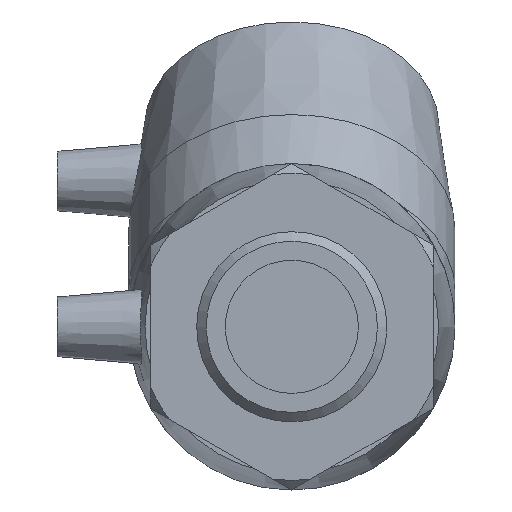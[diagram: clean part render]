
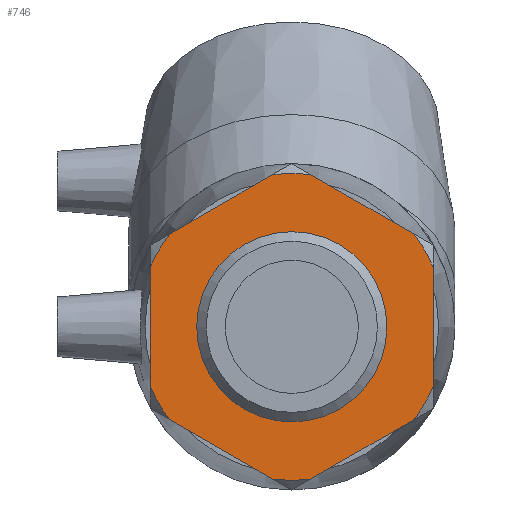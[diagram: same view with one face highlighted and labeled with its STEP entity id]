
A CAD part, left-side view. The second image highlights one B-rep face of the part: STEP entity #746.
In plain terms, the highlighted planar face has unit normal (-1, 0, 0).
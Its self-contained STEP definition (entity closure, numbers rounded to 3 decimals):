
#19=LINE('',#1163,#37);
#23=LINE('',#1187,#41);
#26=LINE('',#1209,#44);
#29=LINE('',#1231,#47);
#34=LINE('',#1268,#52);
#36=LINE('',#1287,#54);
#37=VECTOR('',#926,29.972);
#41=VECTOR('',#932,29.972);
#44=VECTOR('',#937,29.972);
#47=VECTOR('',#942,29.972);
#52=VECTOR('',#949,29.972);
#54=VECTOR('',#953,29.972);
#101=PLANE('',#813);
#121=FACE_BOUND('',#228,.T.);
#165=FACE_OUTER_BOUND('',#227,.T.);
#227=EDGE_LOOP('',(#584,#585,#586,#587,#588,#589,#590,#591,#592,#593,#594,
#595));
#228=EDGE_LOOP('',(#596));
#315=CIRCLE('',#806,23.902);
#316=CIRCLE('',#814,38.54);
#317=CIRCLE('',#815,38.54);
#318=CIRCLE('',#816,38.54);
#319=CIRCLE('',#817,38.54);
#320=CIRCLE('',#818,38.54);
#321=CIRCLE('',#819,38.54);
#364=VERTEX_POINT('',#1154);
#365=VERTEX_POINT('',#1157);
#367=VERTEX_POINT('',#1162);
#373=VERTEX_POINT('',#1182);
#374=VERTEX_POINT('',#1186);
#379=VERTEX_POINT('',#1204);
#380=VERTEX_POINT('',#1208);
#385=VERTEX_POINT('',#1226);
#386=VERTEX_POINT('',#1230);
#392=VERTEX_POINT('',#1249);
#396=VERTEX_POINT('',#1264);
#397=VERTEX_POINT('',#1270);
#400=VERTEX_POINT('',#1283);
#439=EDGE_CURVE('',#364,#364,#315,.T.);
#441=EDGE_CURVE('',#367,#365,#19,.T.);
#449=EDGE_CURVE('',#374,#373,#23,.T.);
#456=EDGE_CURVE('',#380,#379,#26,.T.);
#463=EDGE_CURVE('',#386,#385,#29,.T.);
#475=EDGE_CURVE('',#392,#396,#34,.T.);
#481=EDGE_CURVE('',#397,#400,#36,.T.);
#482=EDGE_CURVE('',#392,#400,#316,.T.);
#483=EDGE_CURVE('',#386,#396,#317,.T.);
#484=EDGE_CURVE('',#380,#385,#318,.T.);
#485=EDGE_CURVE('',#374,#379,#319,.T.);
#486=EDGE_CURVE('',#367,#373,#320,.T.);
#487=EDGE_CURVE('',#397,#365,#321,.T.);
#584=ORIENTED_EDGE('',*,*,#481,.T.);
#585=ORIENTED_EDGE('',*,*,#482,.F.);
#586=ORIENTED_EDGE('',*,*,#475,.T.);
#587=ORIENTED_EDGE('',*,*,#483,.F.);
#588=ORIENTED_EDGE('',*,*,#463,.T.);
#589=ORIENTED_EDGE('',*,*,#484,.F.);
#590=ORIENTED_EDGE('',*,*,#456,.T.);
#591=ORIENTED_EDGE('',*,*,#485,.F.);
#592=ORIENTED_EDGE('',*,*,#449,.T.);
#593=ORIENTED_EDGE('',*,*,#486,.F.);
#594=ORIENTED_EDGE('',*,*,#441,.T.);
#595=ORIENTED_EDGE('',*,*,#487,.F.);
#596=ORIENTED_EDGE('',*,*,#439,.T.);
#746=ADVANCED_FACE('',(#165,#121),#101,.T.);
#806=AXIS2_PLACEMENT_3D('',#1155,#922,#923);
#813=AXIS2_PLACEMENT_3D('',#1288,#954,#955);
#814=AXIS2_PLACEMENT_3D('',#1289,#956,#957);
#815=AXIS2_PLACEMENT_3D('',#1290,#958,#959);
#816=AXIS2_PLACEMENT_3D('',#1291,#960,#961);
#817=AXIS2_PLACEMENT_3D('',#1292,#962,#963);
#818=AXIS2_PLACEMENT_3D('',#1293,#964,#965);
#819=AXIS2_PLACEMENT_3D('',#1294,#966,#967);
#922=DIRECTION('center_axis',(1.,0.,0.));
#923=DIRECTION('ref_axis',(0.,0.,-1.));
#926=DIRECTION('',(0.,0.,-1.));
#932=DIRECTION('',(0.,0.866,-0.5));
#937=DIRECTION('',(0.,0.866,0.5));
#942=DIRECTION('',(0.,0.,1.));
#949=DIRECTION('',(0.,-0.866,0.5));
#953=DIRECTION('',(0.,-0.866,-0.5));
#954=DIRECTION('center_axis',(-1.,0.,0.));
#955=DIRECTION('ref_axis',(0.,0.,1.));
#956=DIRECTION('center_axis',(1.,0.,0.));
#957=DIRECTION('ref_axis',(0.,0.,1.));
#958=DIRECTION('center_axis',(1.,0.,0.));
#959=DIRECTION('ref_axis',(0.,0.,1.));
#960=DIRECTION('center_axis',(1.,0.,0.));
#961=DIRECTION('ref_axis',(0.,0.,1.));
#962=DIRECTION('center_axis',(1.,0.,0.));
#963=DIRECTION('ref_axis',(0.,0.,1.));
#964=DIRECTION('center_axis',(1.,0.,0.));
#965=DIRECTION('ref_axis',(0.,0.,1.));
#966=DIRECTION('center_axis',(1.,0.,0.));
#967=DIRECTION('ref_axis',(0.,0.,1.));
#1154=CARTESIAN_POINT('',(-80.512,0.,-23.902));
#1155=CARTESIAN_POINT('Origin',(-80.512,0.,0.));
#1157=CARTESIAN_POINT('',(-80.512,35.507,-14.986));
#1162=CARTESIAN_POINT('',(-80.512,35.507,14.986));
#1163=CARTESIAN_POINT('',(-80.512,35.507,-30.75));
#1182=CARTESIAN_POINT('',(-80.512,30.732,23.257));
#1186=CARTESIAN_POINT('',(-80.512,4.775,38.243));
#1187=CARTESIAN_POINT('',(-80.512,35.507,20.5));
#1204=CARTESIAN_POINT('',(-80.512,-4.775,38.243));
#1208=CARTESIAN_POINT('',(-80.512,-30.732,23.257));
#1209=CARTESIAN_POINT('',(-80.512,-17.754,30.75));
#1226=CARTESIAN_POINT('',(-80.512,-35.507,14.986));
#1230=CARTESIAN_POINT('',(-80.512,-35.507,-14.986));
#1231=CARTESIAN_POINT('',(-80.512,-35.507,-10.25));
#1249=CARTESIAN_POINT('',(-80.512,-4.775,-38.243));
#1264=CARTESIAN_POINT('',(-80.512,-30.732,-23.257));
#1268=CARTESIAN_POINT('',(-80.512,-17.754,-30.75));
#1270=CARTESIAN_POINT('',(-80.512,30.732,-23.257));
#1283=CARTESIAN_POINT('',(-80.512,4.775,-38.243));
#1287=CARTESIAN_POINT('',(-80.512,0.,-41.));
#1288=CARTESIAN_POINT('Origin',(-80.512,0.,-41.));
#1289=CARTESIAN_POINT('Origin',(-80.512,0.,0.));
#1290=CARTESIAN_POINT('Origin',(-80.512,0.,0.));
#1291=CARTESIAN_POINT('Origin',(-80.512,0.,0.));
#1292=CARTESIAN_POINT('Origin',(-80.512,0.,0.));
#1293=CARTESIAN_POINT('Origin',(-80.512,0.,0.));
#1294=CARTESIAN_POINT('Origin',(-80.512,0.,0.));
